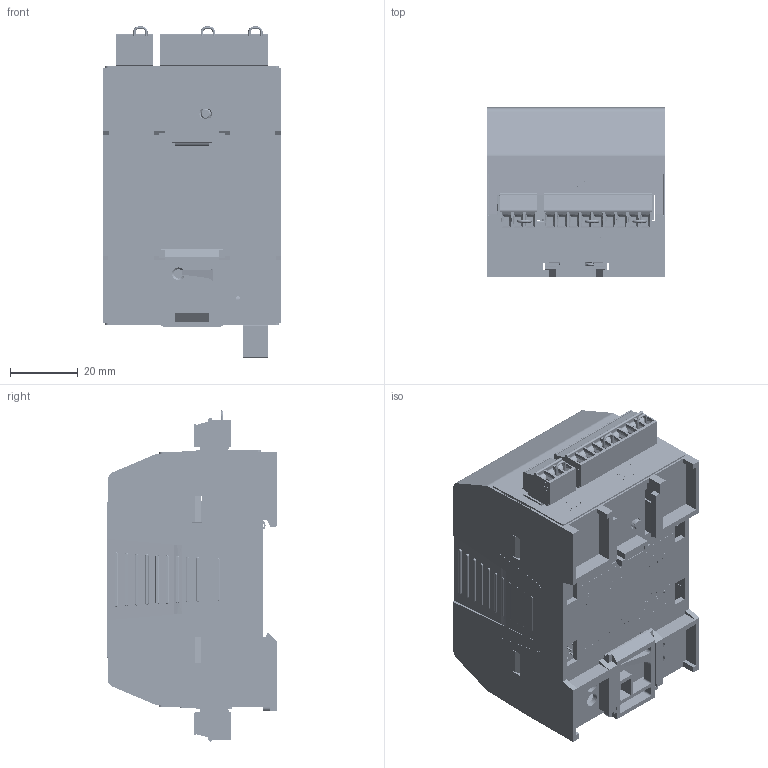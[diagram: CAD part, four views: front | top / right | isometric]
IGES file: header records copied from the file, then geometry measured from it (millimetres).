
Start section: SolidWorks IGES file using analytic representation for surfaces
Global section: file name: C:\0_Work\SolidWorks\~00_HI 6200 Series\HI6200-WT-10-ANA-000.IGS; native system: SolidWorks 2017; preprocessor: SolidWorks 2017; author: vach01; date: 190215.142719; units: millimetre
Bounding box: 52.6 x 50.23 x 97.48 mm (x, y, z)
Surface area: 99404.9 mm2 (no closed solid volume)
Topology: 0 solids, 0 shells, 9885 faces, 76403 edges, 76385 vertices
Faces by surface type: bspline 8384, revolution 1501
